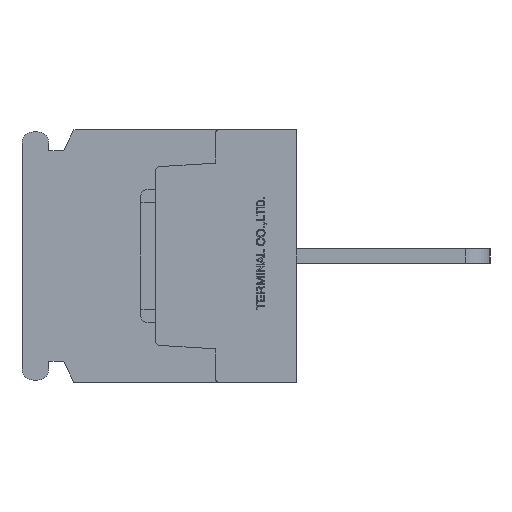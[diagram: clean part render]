
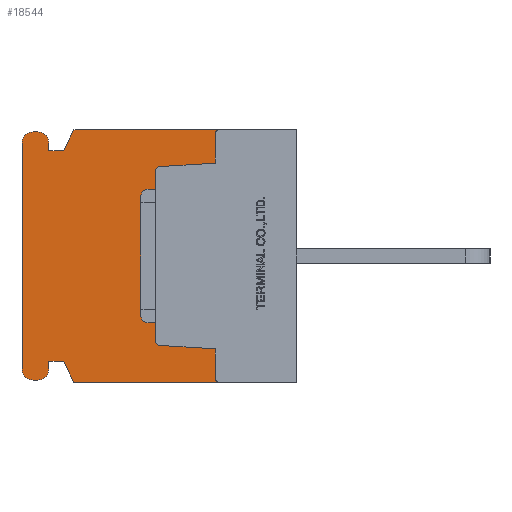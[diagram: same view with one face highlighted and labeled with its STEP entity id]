
A CAD part, left-side view. The second image highlights one B-rep face of the part: STEP entity #18544.
In plain terms, the highlighted planar face has unit normal (-1, 0, 0).
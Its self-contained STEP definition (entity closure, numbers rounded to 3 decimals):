
#1086=CIRCLE('',#19768,0.3);
#1088=CIRCLE('',#19772,0.3);
#1090=CIRCLE('',#19777,0.3);
#1092=CIRCLE('',#19780,0.3);
#1101=CIRCLE('',#19937,0.75);
#1102=CIRCLE('',#19938,0.75);
#1103=CIRCLE('',#19939,0.75);
#1104=CIRCLE('',#19940,0.75);
#2109=VERTEX_POINT('',#27574);
#2110=VERTEX_POINT('',#27576);
#2135=VERTEX_POINT('',#27632);
#2136=VERTEX_POINT('',#27634);
#2455=VERTEX_POINT('',#28764);
#2456=VERTEX_POINT('',#28765);
#2459=VERTEX_POINT('',#28773);
#2473=VERTEX_POINT('',#28803);
#2475=VERTEX_POINT('',#28809);
#2477=VERTEX_POINT('',#28815);
#2479=VERTEX_POINT('',#28821);
#2481=VERTEX_POINT('',#28830);
#2828=VERTEX_POINT('',#30372);
#2829=VERTEX_POINT('',#30374);
#2830=VERTEX_POINT('',#30376);
#2831=VERTEX_POINT('',#30378);
#2832=VERTEX_POINT('',#30380);
#2833=VERTEX_POINT('',#30382);
#2834=VERTEX_POINT('',#30384);
#2835=VERTEX_POINT('',#30386);
#2836=VERTEX_POINT('',#30388);
#2837=VERTEX_POINT('',#30390);
#2838=VERTEX_POINT('',#30392);
#2839=VERTEX_POINT('',#30394);
#4004=VECTOR('',#22156,1.);
#4033=VECTOR('',#22189,1.);
#4349=VECTOR('',#23104,1.);
#4366=VECTOR('',#23128,1.);
#4370=VECTOR('',#23139,1.);
#4373=VECTOR('',#23143,1.);
#4377=VECTOR('',#23160,1.);
#4790=VECTOR('',#23738,1.);
#4791=VECTOR('',#23739,1.);
#4792=VECTOR('',#23740,1.);
#4793=VECTOR('',#23743,1.);
#4794=VECTOR('',#23746,1.);
#4795=VECTOR('',#23749,1.);
#4796=VECTOR('',#23752,1.);
#4797=VECTOR('',#23753,1.);
#4798=VECTOR('',#23754,1.);
#5956=LINE('',#27575,#4004);
#5985=LINE('',#27633,#4033);
#6301=LINE('',#28763,#4349);
#6318=LINE('',#28802,#4366);
#6322=LINE('',#28814,#4370);
#6325=LINE('',#28820,#4373);
#6329=LINE('',#28835,#4377);
#6742=LINE('',#30371,#4790);
#6743=LINE('',#30373,#4791);
#6744=LINE('',#30375,#4792);
#6745=LINE('',#30379,#4793);
#6746=LINE('',#30383,#4794);
#6747=LINE('',#30387,#4795);
#6748=LINE('',#30391,#4796);
#6749=LINE('',#30393,#4797);
#6750=LINE('',#30395,#4798);
#8315=EDGE_CURVE('',#2109,#2110,#5956,.T.);
#8345=EDGE_CURVE('',#2135,#2136,#5985,.T.);
#8846=EDGE_CURVE('',#2455,#2456,#6301,.T.);
#8850=EDGE_CURVE('',#2459,#2455,#1086,.T.);
#8865=EDGE_CURVE('',#2473,#2459,#6318,.T.);
#8868=EDGE_CURVE('',#2475,#2473,#1088,.T.);
#8871=EDGE_CURVE('',#2477,#2475,#6322,.T.);
#8874=EDGE_CURVE('',#2479,#2477,#6325,.T.);
#8877=EDGE_CURVE('',#2110,#2479,#1090,.T.);
#8879=EDGE_CURVE('',#2481,#2135,#1092,.T.);
#8882=EDGE_CURVE('',#2456,#2481,#6329,.T.);
#9406=EDGE_CURVE('',#2828,#2109,#6742,.T.);
#9407=EDGE_CURVE('',#2829,#2828,#6743,.T.);
#9408=EDGE_CURVE('',#2830,#2829,#6744,.T.);
#9409=EDGE_CURVE('',#2831,#2830,#1101,.T.);
#9410=EDGE_CURVE('',#2832,#2831,#6745,.T.);
#9411=EDGE_CURVE('',#2833,#2832,#1102,.T.);
#9412=EDGE_CURVE('',#2834,#2833,#6746,.T.);
#9413=EDGE_CURVE('',#2835,#2834,#1103,.T.);
#9414=EDGE_CURVE('',#2836,#2835,#6747,.T.);
#9415=EDGE_CURVE('',#2837,#2836,#1104,.T.);
#9416=EDGE_CURVE('',#2838,#2837,#6748,.T.);
#9417=EDGE_CURVE('',#2839,#2838,#6749,.T.);
#9418=EDGE_CURVE('',#2136,#2839,#6750,.T.);
#14630=ORIENTED_EDGE('',*,*,#8877,.F.);
#14631=ORIENTED_EDGE('',*,*,#8315,.F.);
#14632=ORIENTED_EDGE('',*,*,#9406,.F.);
#14633=ORIENTED_EDGE('',*,*,#9407,.F.);
#14634=ORIENTED_EDGE('',*,*,#9408,.F.);
#14635=ORIENTED_EDGE('',*,*,#9409,.F.);
#14636=ORIENTED_EDGE('',*,*,#9410,.F.);
#14637=ORIENTED_EDGE('',*,*,#9411,.F.);
#14638=ORIENTED_EDGE('',*,*,#9412,.F.);
#14639=ORIENTED_EDGE('',*,*,#9413,.F.);
#14640=ORIENTED_EDGE('',*,*,#9414,.F.);
#14641=ORIENTED_EDGE('',*,*,#9415,.F.);
#14642=ORIENTED_EDGE('',*,*,#9416,.F.);
#14643=ORIENTED_EDGE('',*,*,#9417,.F.);
#14644=ORIENTED_EDGE('',*,*,#9418,.F.);
#14645=ORIENTED_EDGE('',*,*,#8345,.F.);
#14646=ORIENTED_EDGE('',*,*,#8879,.F.);
#14647=ORIENTED_EDGE('',*,*,#8882,.F.);
#14648=ORIENTED_EDGE('',*,*,#8846,.F.);
#14649=ORIENTED_EDGE('',*,*,#8850,.F.);
#14650=ORIENTED_EDGE('',*,*,#8865,.F.);
#14651=ORIENTED_EDGE('',*,*,#8868,.F.);
#14652=ORIENTED_EDGE('',*,*,#8871,.F.);
#14653=ORIENTED_EDGE('',*,*,#8874,.F.);
#16267=EDGE_LOOP('',(#14630,#14631,#14632,#14633,#14634,#14635,#14636,#14637,
#14638,#14639,#14640,#14641,#14642,#14643,#14644,#14645,#14646,#14647,#14648,
#14649,#14650,#14651,#14652,#14653));
#17473=FACE_BOUND('',#16267,.T.);
#18544=ADVANCED_FACE('',(#17473),#31494,.F.);
#19768=AXIS2_PLACEMENT_3D('',#28772,#23110,#23111);
#19772=AXIS2_PLACEMENT_3D('',#28808,#23133,#23134);
#19777=AXIS2_PLACEMENT_3D('',#28826,#23148,#23149);
#19780=AXIS2_PLACEMENT_3D('',#28829,#23154,#23155);
#19936=AXIS2_PLACEMENT_3D('',#30370,#23737,$);
#19937=AXIS2_PLACEMENT_3D('',#30377,#23741,#23742);
#19938=AXIS2_PLACEMENT_3D('',#30381,#23744,#23745);
#19939=AXIS2_PLACEMENT_3D('',#30385,#23747,#23748);
#19940=AXIS2_PLACEMENT_3D('',#30389,#23750,#23751);
#22156=DIRECTION('',(0.,-1.,0.));
#22189=DIRECTION('',(0.,1.,0.));
#23104=DIRECTION('',(0.,-0.998,-0.062));
#23110=DIRECTION('',(-1.,0.,0.));
#23111=DIRECTION('',(0.,0.,-0.3));
#23128=DIRECTION('',(0.,0.,-1.));
#23133=DIRECTION('',(-1.,0.,0.));
#23134=DIRECTION('',(0.,0.,-0.3));
#23139=DIRECTION('',(0.,0.998,-0.062));
#23143=DIRECTION('',(0.,0.,-1.));
#23148=DIRECTION('',(-1.,0.,0.));
#23149=DIRECTION('',(0.,0.,-0.3));
#23154=DIRECTION('',(-1.,0.,0.));
#23155=DIRECTION('',(0.,0.,-0.3));
#23160=DIRECTION('',(0.,0.,-1.));
#23737=DIRECTION('',(1.,0.,0.));
#23738=DIRECTION('',(0.,-0.447,0.894));
#23739=DIRECTION('',(0.,-1.,0.));
#23740=DIRECTION('',(0.,0.,-1.));
#23741=DIRECTION('',(1.,0.,0.));
#23742=DIRECTION('',(0.,0.,-0.75));
#23743=DIRECTION('',(0.,-1.,0.));
#23744=DIRECTION('',(1.,0.,0.));
#23745=DIRECTION('',(0.,0.,-0.75));
#23746=DIRECTION('',(0.,0.,1.));
#23747=DIRECTION('',(1.,0.,0.));
#23748=DIRECTION('',(0.,0.,-0.75));
#23749=DIRECTION('',(0.,1.,0.));
#23750=DIRECTION('',(1.,0.,0.));
#23751=DIRECTION('',(0.,0.,-0.75));
#23752=DIRECTION('',(0.,0.,-1.));
#23753=DIRECTION('',(0.,1.,0.));
#23754=DIRECTION('',(0.,0.447,0.894));
#27574=CARTESIAN_POINT('',(0.,15.,8.5));
#27575=CARTESIAN_POINT('',(0.,15.,8.5));
#27576=CARTESIAN_POINT('',(0.,5.2,8.5));
#27632=CARTESIAN_POINT('',(0.,5.2,-8.5));
#27633=CARTESIAN_POINT('',(0.,0.,-8.5));
#27634=CARTESIAN_POINT('',(0.,15.,-8.5));
#28763=CARTESIAN_POINT('',(0.,9.219,-6.018));
#28764=CARTESIAN_POINT('',(0.,9.219,-6.018));
#28765=CARTESIAN_POINT('',(0.,5.5,-6.25));
#28772=CARTESIAN_POINT('',(0.,9.2,-5.718));
#28773=CARTESIAN_POINT('',(0.,9.5,-5.718));
#28802=CARTESIAN_POINT('',(0.,9.5,5.718));
#28803=CARTESIAN_POINT('',(0.,9.5,5.718));
#28808=CARTESIAN_POINT('',(0.,9.2,5.718));
#28809=CARTESIAN_POINT('',(0.,9.219,6.018));
#28814=CARTESIAN_POINT('',(0.,5.5,6.25));
#28815=CARTESIAN_POINT('',(0.,5.5,6.25));
#28820=CARTESIAN_POINT('',(0.,5.5,8.2));
#28821=CARTESIAN_POINT('',(0.,5.5,8.2));
#28826=CARTESIAN_POINT('',(0.,5.2,8.2));
#28829=CARTESIAN_POINT('',(0.,5.2,-8.2));
#28830=CARTESIAN_POINT('',(0.,5.5,-8.2));
#28835=CARTESIAN_POINT('',(0.,5.5,-6.25));
#30370=CARTESIAN_POINT('',(0.,9.463,0.));
#30371=CARTESIAN_POINT('',(0.,15.7,7.1));
#30372=CARTESIAN_POINT('',(0.,15.7,7.1));
#30373=CARTESIAN_POINT('',(0.,16.7,7.1));
#30374=CARTESIAN_POINT('',(0.,16.7,7.1));
#30375=CARTESIAN_POINT('',(0.,16.7,7.6));
#30376=CARTESIAN_POINT('',(0.,16.7,7.6));
#30377=CARTESIAN_POINT('',(0.,17.45,7.6));
#30378=CARTESIAN_POINT('',(0.,17.45,8.35));
#30379=CARTESIAN_POINT('',(0.,17.75,8.35));
#30380=CARTESIAN_POINT('',(0.,17.75,8.35));
#30381=CARTESIAN_POINT('',(0.,17.75,7.6));
#30382=CARTESIAN_POINT('',(0.,18.5,7.6));
#30383=CARTESIAN_POINT('',(0.,18.5,-7.6));
#30384=CARTESIAN_POINT('',(0.,18.5,-7.6));
#30385=CARTESIAN_POINT('',(0.,17.75,-7.6));
#30386=CARTESIAN_POINT('',(0.,17.75,-8.35));
#30387=CARTESIAN_POINT('',(0.,17.45,-8.35));
#30388=CARTESIAN_POINT('',(0.,17.45,-8.35));
#30389=CARTESIAN_POINT('',(0.,17.45,-7.6));
#30390=CARTESIAN_POINT('',(0.,16.7,-7.6));
#30391=CARTESIAN_POINT('',(0.,16.7,-7.1));
#30392=CARTESIAN_POINT('',(0.,16.7,-7.1));
#30393=CARTESIAN_POINT('',(0.,15.7,-7.1));
#30394=CARTESIAN_POINT('',(0.,15.7,-7.1));
#30395=CARTESIAN_POINT('',(0.,15.,-8.5));
#31494=PLANE('',#19936);
